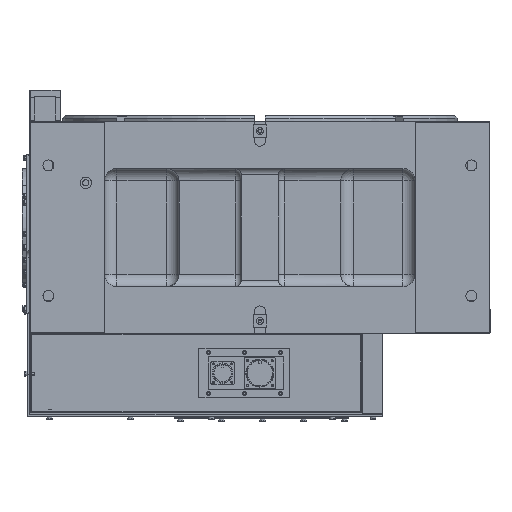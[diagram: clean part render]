
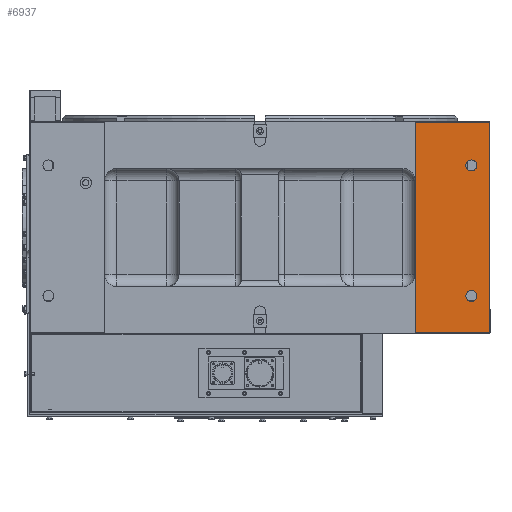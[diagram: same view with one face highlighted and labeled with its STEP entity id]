
A CAD part, front view. The second image highlights one B-rep face of the part: STEP entity #6937.
In plain terms, the highlighted planar face has unit normal (0, -1, 0).
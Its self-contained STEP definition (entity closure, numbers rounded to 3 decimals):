
#706 = FACE_OUTER_BOUND ( 'NONE', #18676, .T. ) ;
#2355 = DIRECTION ( 'NONE',  ( 1., 0., 0. ) ) ;
#2579 = CIRCLE ( 'NONE', #35420, 8.75 ) ;
#3021 = CARTESIAN_POINT ( 'NONE',  ( 340., -400., -228.25 ) ) ;
#3670 = LINE ( 'NONE', #21589, #47673 ) ;
#4246 = DIRECTION ( 'NONE',  ( 0., 0., 1. ) ) ;
#5114 = PLANE ( 'NONE',  #36351 ) ;
#5600 = VECTOR ( 'NONE', #32889, 1000. ) ;
#6327 = AXIS2_PLACEMENT_3D ( 'NONE', #55686, #20182, #55958 ) ;
#6496 = ORIENTED_EDGE ( 'NONE', *, *, #38036, .T. ) ;
#6779 = VERTEX_POINT ( 'NONE', #52702 ) ;
#6937 = ADVANCED_FACE ( 'NONE', ( #706, #18916, #13355 ), #5114, .T. ) ;
#7781 = EDGE_CURVE ( 'NONE', #57599, #34623, #22223, .T. ) ;
#8647 = CARTESIAN_POINT ( 'NONE',  ( -370., -400., -297. ) ) ;
#8861 = DIRECTION ( 'NONE',  ( 0., -1., 0. ) ) ;
#9884 = ORIENTED_EDGE ( 'NONE', *, *, #27240, .F. ) ;
#10917 = CARTESIAN_POINT ( 'NONE',  ( 340., -400., -35.75 ) ) ;
#11029 = DIRECTION ( 'NONE',  ( 0., 0., -1. ) ) ;
#11394 = EDGE_LOOP ( 'NONE', ( #55268, #9884 ) ) ;
#11441 = VERTEX_POINT ( 'NONE', #54912 ) ;
#13355 = FACE_BOUND ( 'NONE', #11394, .T. ) ;
#13479 = LINE ( 'NONE', #18457, #27867 ) ;
#14272 = CARTESIAN_POINT ( 'NONE',  ( 340., -400., -18.25 ) ) ;
#15311 = CARTESIAN_POINT ( 'NONE',  ( 340., -400., -245.75 ) ) ;
#15451 = CARTESIAN_POINT ( 'NONE',  ( 340., -400., -237. ) ) ;
#15985 = CARTESIAN_POINT ( 'NONE',  ( 340., -400., -237. ) ) ;
#18457 = CARTESIAN_POINT ( 'NONE',  ( 250., -400., 42. ) ) ;
#18676 = EDGE_LOOP ( 'NONE', ( #43363, #6496, #39717, #40620 ) ) ;
#18916 = FACE_BOUND ( 'NONE', #56568, .T. ) ;
#20182 = DIRECTION ( 'NONE',  ( 0., -1., 0. ) ) ;
#20340 = AXIS2_PLACEMENT_3D ( 'NONE', #15451, #37774, #11029 ) ;
#20846 = LINE ( 'NONE', #42582, #48185 ) ;
#21589 = CARTESIAN_POINT ( 'NONE',  ( 369., -400., -297. ) ) ;
#22223 = CIRCLE ( 'NONE', #20340, 8.75 ) ;
#24628 = VERTEX_POINT ( 'NONE', #14272 ) ;
#25964 = VERTEX_POINT ( 'NONE', #38010 ) ;
#26138 = ORIENTED_EDGE ( 'NONE', *, *, #29564, .F. ) ;
#27240 = EDGE_CURVE ( 'NONE', #34623, #57599, #53449, .T. ) ;
#27376 = CARTESIAN_POINT ( 'NONE',  ( 340., -400., -27. ) ) ;
#27867 = VECTOR ( 'NONE', #53102, 1000. ) ;
#29564 = EDGE_CURVE ( 'NONE', #42050, #24628, #29787, .T. ) ;
#29787 = CIRCLE ( 'NONE', #6327, 8.75 ) ;
#31889 = AXIS2_PLACEMENT_3D ( 'NONE', #15985, #34208, #39159 ) ;
#32153 = DIRECTION ( 'NONE',  ( 1., 0., 0. ) ) ;
#32889 = DIRECTION ( 'NONE',  ( 0., 0., 1. ) ) ;
#34208 = DIRECTION ( 'NONE',  ( 0., -1., 0. ) ) ;
#34623 = VERTEX_POINT ( 'NONE', #3021 ) ;
#35420 = AXIS2_PLACEMENT_3D ( 'NONE', #27376, #8861, #45266 ) ;
#36351 = AXIS2_PLACEMENT_3D ( 'NONE', #8647, #36837, #32153 ) ;
#36683 = ORIENTED_EDGE ( 'NONE', *, *, #37418, .F. ) ;
#36837 = DIRECTION ( 'NONE',  ( 0., -1., 0. ) ) ;
#37418 = EDGE_CURVE ( 'NONE', #24628, #42050, #2579, .T. ) ;
#37774 = DIRECTION ( 'NONE',  ( 0., -1., 0. ) ) ;
#38010 = CARTESIAN_POINT ( 'NONE',  ( 250., -400., 42. ) ) ;
#38036 = EDGE_CURVE ( 'NONE', #45449, #6779, #3670, .T. ) ;
#39159 = DIRECTION ( 'NONE',  ( 0., 0., -1. ) ) ;
#39717 = ORIENTED_EDGE ( 'NONE', *, *, #48668, .T. ) ;
#40250 = EDGE_CURVE ( 'NONE', #11441, #25964, #56010, .T. ) ;
#40620 = ORIENTED_EDGE ( 'NONE', *, *, #40250, .F. ) ;
#41942 = CARTESIAN_POINT ( 'NONE',  ( 250., -400., -32. ) ) ;
#42050 = VERTEX_POINT ( 'NONE', #10917 ) ;
#42582 = CARTESIAN_POINT ( 'NONE',  ( 370., -400., -296. ) ) ;
#43363 = ORIENTED_EDGE ( 'NONE', *, *, #43828, .T. ) ;
#43828 = EDGE_CURVE ( 'NONE', #11441, #45449, #20846, .T. ) ;
#45266 = DIRECTION ( 'NONE',  ( 0., 0., -1. ) ) ;
#45449 = VERTEX_POINT ( 'NONE', #50330 ) ;
#47673 = VECTOR ( 'NONE', #4246, 1000. ) ;
#48185 = VECTOR ( 'NONE', #2355, 1000. ) ;
#48668 = EDGE_CURVE ( 'NONE', #6779, #25964, #13479, .T. ) ;
#50330 = CARTESIAN_POINT ( 'NONE',  ( 369., -400., -296. ) ) ;
#52702 = CARTESIAN_POINT ( 'NONE',  ( 369., -400., 42. ) ) ;
#53102 = DIRECTION ( 'NONE',  ( -1., 0., 0. ) ) ;
#53449 = CIRCLE ( 'NONE', #31889, 8.75 ) ;
#54912 = CARTESIAN_POINT ( 'NONE',  ( 250., -400., -296. ) ) ;
#55268 = ORIENTED_EDGE ( 'NONE', *, *, #7781, .F. ) ;
#55686 = CARTESIAN_POINT ( 'NONE',  ( 340., -400., -27. ) ) ;
#55958 = DIRECTION ( 'NONE',  ( 0., 0., -1. ) ) ;
#56010 = LINE ( 'NONE', #41942, #5600 ) ;
#56568 = EDGE_LOOP ( 'NONE', ( #26138, #36683 ) ) ;
#57599 = VERTEX_POINT ( 'NONE', #15311 ) ;
